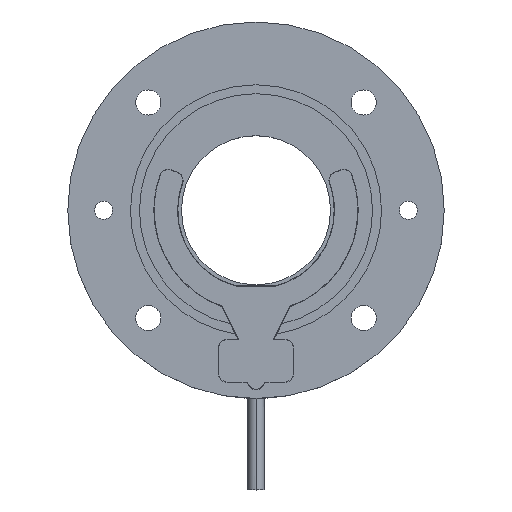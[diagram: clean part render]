
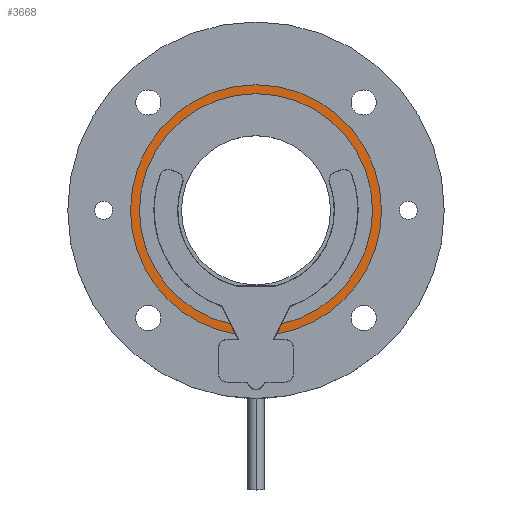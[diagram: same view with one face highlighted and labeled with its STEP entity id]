
A CAD part, top view. The second image highlights one B-rep face of the part: STEP entity #3668.
In plain terms, the highlighted planar face has unit normal (0, 0, 1).
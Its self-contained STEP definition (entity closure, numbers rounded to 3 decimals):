
#263 = AXIS2_PLACEMENT_3D ( 'NONE', #4549, #4498, #1947 ) ;
#470 = PLANE ( 'NONE',  #1433 ) ;
#533 = ORIENTED_EDGE ( 'NONE', *, *, #2653, .F. ) ;
#614 = VERTEX_POINT ( 'NONE', #2258 ) ;
#653 = CARTESIAN_POINT ( 'NONE',  ( -5.726, -34.528, 0. ) ) ;
#715 = CIRCLE ( 'NONE', #263, 35. ) ;
#806 = CARTESIAN_POINT ( 'NONE',  ( -31.195, 17.115, 0. ) ) ;
#847 = DIRECTION ( 'NONE',  ( 0., 0., 1. ) ) ;
#852 = AXIS2_PLACEMENT_3D ( 'NONE', #4341, #1060, #4385 ) ;
#921 = DIRECTION ( 'NONE',  ( 1., 0., 0. ) ) ;
#1060 = DIRECTION ( 'NONE',  ( 0., 0., 1. ) ) ;
#1228 = LINE ( 'NONE', #1600, #2168 ) ;
#1285 = ORIENTED_EDGE ( 'NONE', *, *, #1887, .T. ) ;
#1410 = VERTEX_POINT ( 'NONE', #3102 ) ;
#1433 = AXIS2_PLACEMENT_3D ( 'NONE', #2707, #3412, #1924 ) ;
#1516 = AXIS2_PLACEMENT_3D ( 'NONE', #4645, #4217, #4290 ) ;
#1592 = CIRCLE ( 'NONE', #2363, 35. ) ;
#1600 = CARTESIAN_POINT ( 'NONE',  ( 31.186, 17.129, 0. ) ) ;
#1658 = CARTESIAN_POINT ( 'NONE',  ( -32.5, 0., 0. ) ) ;
#1793 = ORIENTED_EDGE ( 'NONE', *, *, #1920, .T. ) ;
#1795 = DIRECTION ( 'NONE',  ( 1., 0., 0. ) ) ;
#1841 = CIRCLE ( 'NONE', #852, 32.5 ) ;
#1887 = EDGE_CURVE ( 'NONE', #4363, #3798, #715, .T. ) ;
#1920 = EDGE_CURVE ( 'NONE', #4545, #4072, #1228, .T. ) ;
#1924 = DIRECTION ( 'NONE',  ( -1., 0., 0. ) ) ;
#1947 = DIRECTION ( 'NONE',  ( 1., 0., 0. ) ) ;
#2126 = DIRECTION ( 'NONE',  ( 1., 0., 0. ) ) ;
#2134 = ORIENTED_EDGE ( 'NONE', *, *, #4307, .F. ) ;
#2168 = VECTOR ( 'NONE', #2701, 1000. ) ;
#2191 = CARTESIAN_POINT ( 'NONE',  ( 0., 0., 0. ) ) ;
#2237 = EDGE_CURVE ( 'NONE', #4545, #1410, #4542, .T. ) ;
#2258 = CARTESIAN_POINT ( 'NONE',  ( 35., 0., 0. ) ) ;
#2276 = FACE_OUTER_BOUND ( 'NONE', #3880, .T. ) ;
#2335 = CARTESIAN_POINT ( 'NONE',  ( 0., 0., 0. ) ) ;
#2363 = AXIS2_PLACEMENT_3D ( 'NONE', #3286, #4020, #1795 ) ;
#2373 = CARTESIAN_POINT ( 'NONE',  ( -7.115, -31.712, 0. ) ) ;
#2514 = EDGE_CURVE ( 'NONE', #1410, #3749, #1841, .T. ) ;
#2651 = DIRECTION ( 'NONE',  ( 0.442, -0.897, 0. ) ) ;
#2653 = EDGE_CURVE ( 'NONE', #4213, #3798, #2727, .T. ) ;
#2701 = DIRECTION ( 'NONE',  ( -0.442, -0.897, 0. ) ) ;
#2707 = CARTESIAN_POINT ( 'NONE',  ( 0., 32.5, 0. ) ) ;
#2727 = LINE ( 'NONE', #806, #3689 ) ;
#2732 = AXIS2_PLACEMENT_3D ( 'NONE', #2335, #847, #921 ) ;
#2879 = DIRECTION ( 'NONE',  ( 0., 0., 1. ) ) ;
#3102 = CARTESIAN_POINT ( 'NONE',  ( 32.5, 0., 0. ) ) ;
#3103 = ORIENTED_EDGE ( 'NONE', *, *, #2514, .F. ) ;
#3286 = CARTESIAN_POINT ( 'NONE',  ( 0., 0., 0. ) ) ;
#3303 = CARTESIAN_POINT ( 'NONE',  ( -35., 0., 0. ) ) ;
#3412 = DIRECTION ( 'NONE',  ( 0., 0., -1. ) ) ;
#3618 = AXIS2_PLACEMENT_3D ( 'NONE', #2191, #2879, #2126 ) ;
#3668 = ADVANCED_FACE ( 'NONE', ( #2276 ), #470, .F. ) ;
#3689 = VECTOR ( 'NONE', #2651, 1000. ) ;
#3704 = CIRCLE ( 'NONE', #3618, 32.5 ) ;
#3749 = VERTEX_POINT ( 'NONE', #1658 ) ;
#3798 = VERTEX_POINT ( 'NONE', #653 ) ;
#3866 = EDGE_CURVE ( 'NONE', #614, #4363, #1592, .T. ) ;
#3880 = EDGE_LOOP ( 'NONE', ( #533, #2134, #3103, #4677, #1793, #4176, #4588, #1285 ) ) ;
#3970 = CIRCLE ( 'NONE', #1516, 35. ) ;
#4020 = DIRECTION ( 'NONE',  ( 0., 0., 1. ) ) ;
#4072 = VERTEX_POINT ( 'NONE', #4093 ) ;
#4093 = CARTESIAN_POINT ( 'NONE',  ( 5.725, -34.529, 0. ) ) ;
#4136 = CARTESIAN_POINT ( 'NONE',  ( 7.114, -31.712, 0. ) ) ;
#4176 = ORIENTED_EDGE ( 'NONE', *, *, #4187, .T. ) ;
#4187 = EDGE_CURVE ( 'NONE', #4072, #614, #3970, .T. ) ;
#4213 = VERTEX_POINT ( 'NONE', #2373 ) ;
#4217 = DIRECTION ( 'NONE',  ( 0., 0., 1. ) ) ;
#4290 = DIRECTION ( 'NONE',  ( 1., 0., 0. ) ) ;
#4307 = EDGE_CURVE ( 'NONE', #3749, #4213, #3704, .T. ) ;
#4341 = CARTESIAN_POINT ( 'NONE',  ( 0., 0., 0. ) ) ;
#4363 = VERTEX_POINT ( 'NONE', #3303 ) ;
#4385 = DIRECTION ( 'NONE',  ( 1., 0., 0. ) ) ;
#4498 = DIRECTION ( 'NONE',  ( 0., 0., 1. ) ) ;
#4542 = CIRCLE ( 'NONE', #2732, 32.5 ) ;
#4545 = VERTEX_POINT ( 'NONE', #4136 ) ;
#4549 = CARTESIAN_POINT ( 'NONE',  ( 0., 0., 0. ) ) ;
#4588 = ORIENTED_EDGE ( 'NONE', *, *, #3866, .T. ) ;
#4645 = CARTESIAN_POINT ( 'NONE',  ( 0., 0., 0. ) ) ;
#4677 = ORIENTED_EDGE ( 'NONE', *, *, #2237, .F. ) ;
